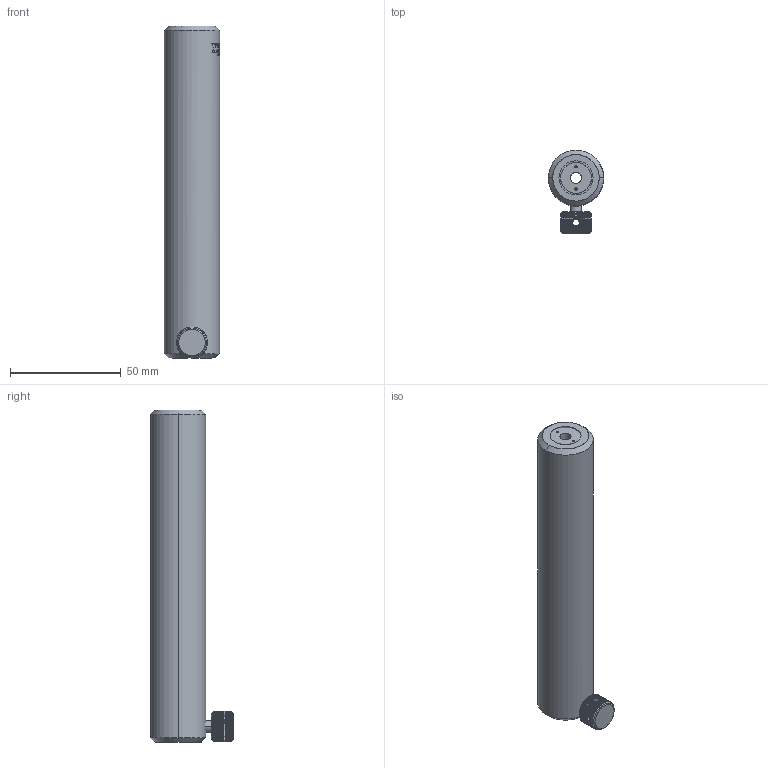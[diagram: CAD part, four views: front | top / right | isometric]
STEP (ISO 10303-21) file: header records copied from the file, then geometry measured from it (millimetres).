
FILE_DESCRIPTION (( 'STEP AP203' ), '1' );
FILE_NAME ('PHSH-5.STEP', '2019-05-10T02:25:41', ( '' ), ( '' ), 'SwSTEP 2.0', 'SolidWorks 2016', '' );
FILE_SCHEMA (( 'CONFIG_CONTROL_DESIGN' ));
Length unit declared in the file: millimetre
Products named in the file (1): PHSH-5
Bounding box: 25 x 37.5 x 150 mm (x, y, z)
Surface area: 16099.4 mm2 (no closed solid volume)
Topology: 0 solids, 327 shells, 333 faces, 2190 edges, 2184 vertices
Faces by surface type: plane 198, cylinder 119, cone 10, bspline 6
Entity records: 23217 total; most frequent: CARTESIAN_POINT 9170, ORIENTED_EDGE 2196, EDGE_CURVE 2190, VERTEX_POINT 2184, DIRECTION 2126, B_SPLINE_CURVE_WITH_KNOTS 1132, AXIS2_PLACEMENT_3D 740, VECTOR 646
